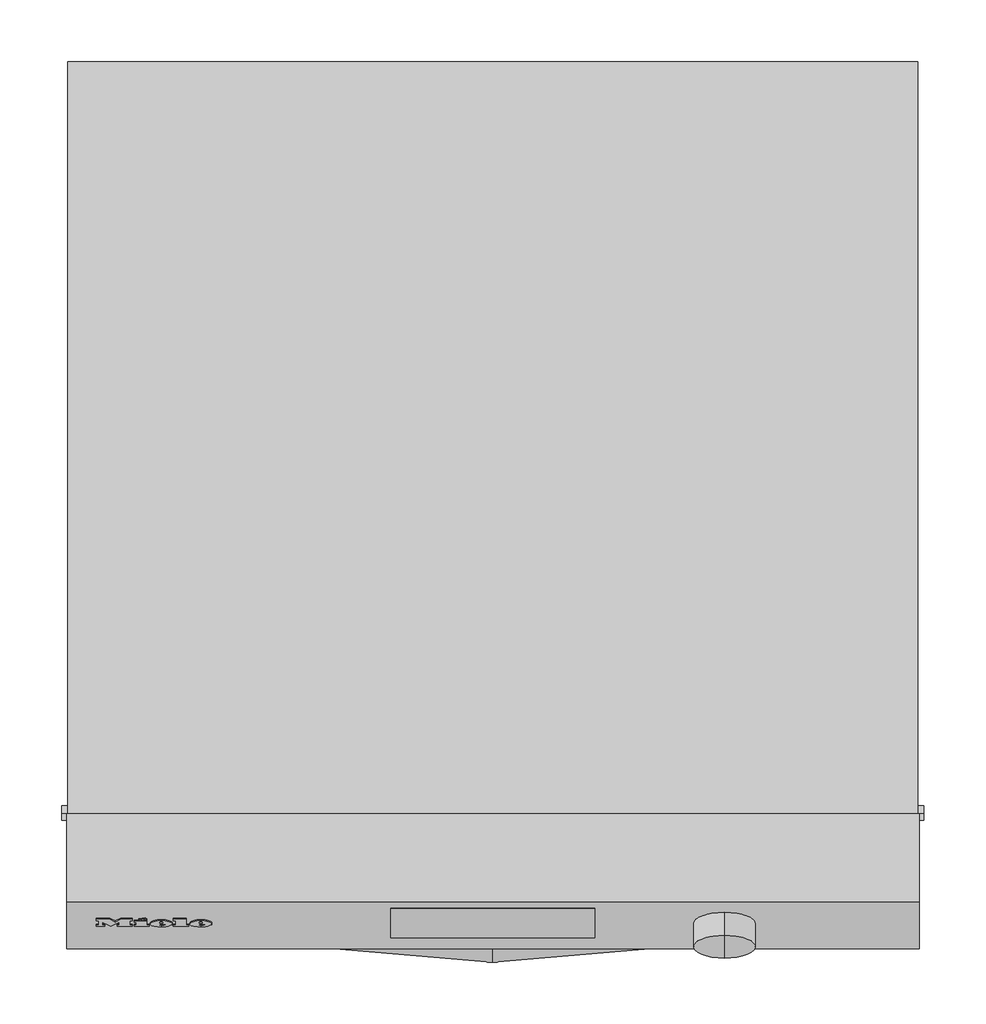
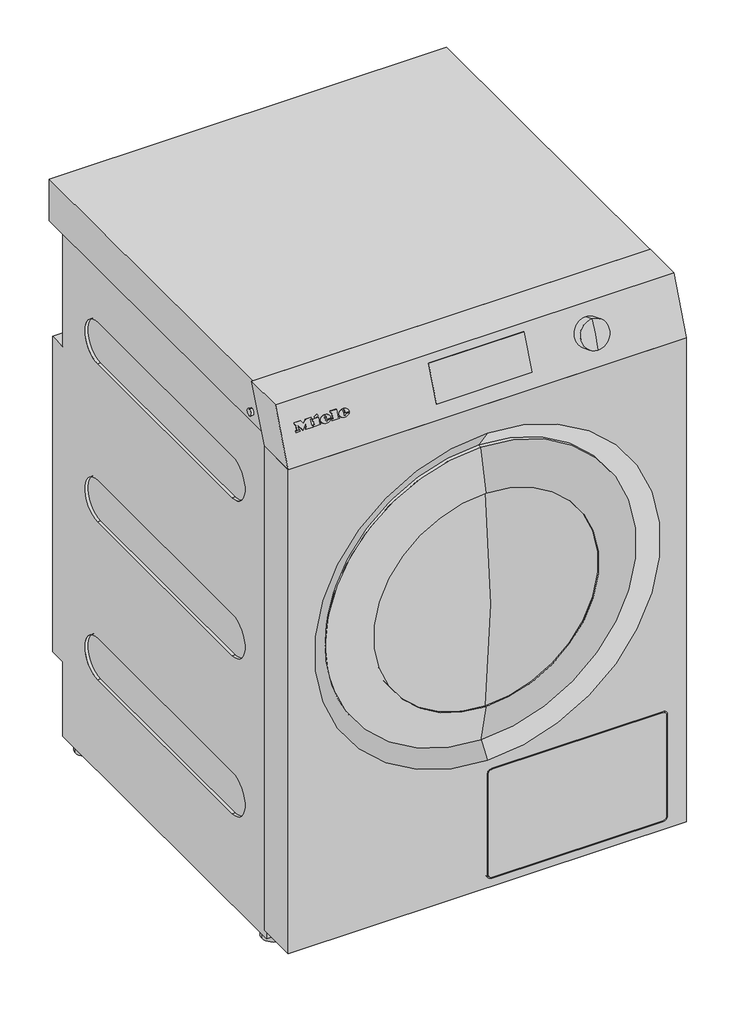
# Not in any storey: 1 proxy.
"""IFC4 building model written with IfcOpenShell, lengths in millimetres."""

from ifc_helpers import new_model, si_unit, origin, place, context, project, spatial, transform, mapped, element, save
from components import specialty_equipment_de5fa5e3, specialty_equipment_7c50d67c

model = new_model("IFC4")

# Units and contexts
model_context = context("Model", 3, world=origin())
ifc_project = project(units=[si_unit("LENGTHUNIT", "METRE", prefix="MILLI")], contexts=[model_context])

# Site, building
site = spatial("IfcSite", under=ifc_project)
building = spatial("IfcBuilding", under=site)

# Proxy
placement = place(None, origin())
specialty_equipment_shape = specialty_equipment_de5fa5e3(model_context)
specialty_equipment_2_shape = specialty_equipment_7c50d67c(model_context)
element("IfcBuildingElementProxy", 1, Name="11924260_EU_PDR510ROPEL_IG : 52510001_EU_11924260_PDR510ROPEL_IG", ObjectType="11924260_EU_PDR510ROPEL_IG : 52510001_EU_11924260_PDR510ROPEL_IG", at=placement, inside=building, context=model_context, shape_type="MappedRepresentation", body=[
    mapped(specialty_equipment_shape, transform((0.0, 0.0, 0.0), x_axis=(1.0, 0.0, 0.0), y_axis=(0.0, 1.0, 0.0), z_axis=(0.0, 0.0, 1.0))),
    mapped(specialty_equipment_2_shape, transform((0.0, 0.0, 0.0), x_axis=(1.0, 0.0, 0.0), y_axis=(0.0, 1.0, 0.0), z_axis=(0.0, 0.0, 1.0))),
])

save(model, "model.ifc")
